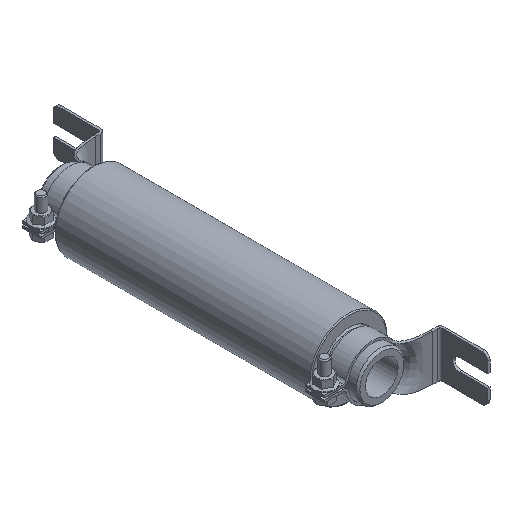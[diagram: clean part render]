
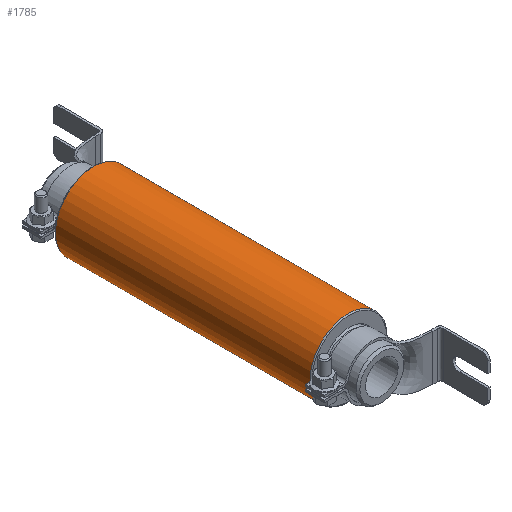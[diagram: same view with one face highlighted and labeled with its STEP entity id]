
A CAD part, isometric view. The second image highlights one B-rep face of the part: STEP entity #1785.
In plain terms, the highlighted cylindrical face has radius 20 mm (diameter 40 mm), a full revolution.
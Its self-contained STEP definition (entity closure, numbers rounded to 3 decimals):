
#700=ORIENTED_EDGE('',*,*,#1026,.T.);
#701=ORIENTED_EDGE('',*,*,#1027,.T.);
#1026=EDGE_CURVE('',#1215,#1215,#1330,.F.);
#1027=EDGE_CURVE('',#1216,#1216,#1331,.T.);
#1215=VERTEX_POINT('',#3709);
#1216=VERTEX_POINT('',#3711);
#1330=CIRCLE('',#2295,20.);
#1331=CIRCLE('',#2296,20.);
#1449=EDGE_LOOP('',(#700));
#1450=EDGE_LOOP('',(#701));
#1611=FACE_BOUND('',#1449,.T.);
#1612=FACE_BOUND('',#1450,.T.);
#1711=CYLINDRICAL_SURFACE('',#2294,20.);
#1785=ADVANCED_FACE('',(#1611,#1612),#1711,.T.);
#2294=AXIS2_PLACEMENT_3D('',#3707,#2692,#2693);
#2295=AXIS2_PLACEMENT_3D('',#3708,#2694,#2695);
#2296=AXIS2_PLACEMENT_3D('',#3710,#2696,#2697);
#2692=DIRECTION('',(0.,0.,-1.));
#2693=DIRECTION('',(-1.,0.,0.));
#2694=DIRECTION('',(0.,0.,-1.));
#2695=DIRECTION('',(-1.,0.,0.));
#2696=DIRECTION('',(0.,0.,-1.));
#2697=DIRECTION('',(-1.,0.,0.));
#3707=CARTESIAN_POINT('',(0.,0.,67.));
#3708=CARTESIAN_POINT('',(0.,0.,-66.5));
#3709=CARTESIAN_POINT('',(-20.,0.,-66.5));
#3710=CARTESIAN_POINT('',(0.,0.,66.5));
#3711=CARTESIAN_POINT('',(-20.,0.,66.5));
